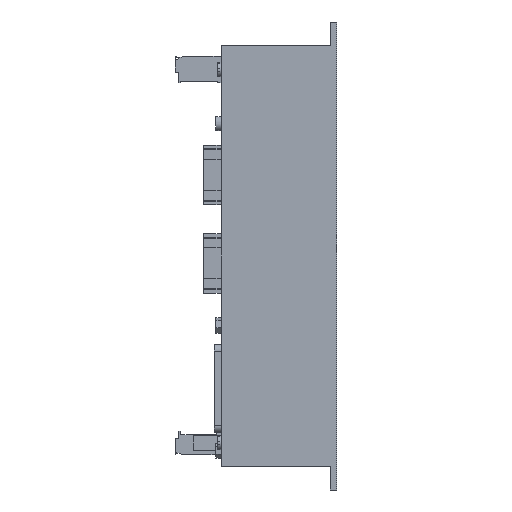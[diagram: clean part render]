
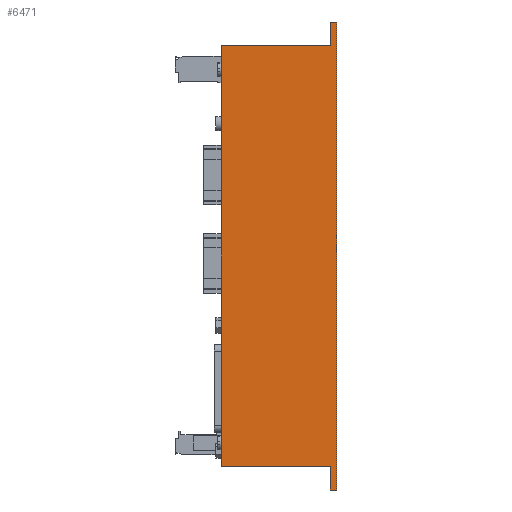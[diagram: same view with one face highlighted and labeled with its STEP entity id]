
A CAD part, left-side view. The second image highlights one B-rep face of the part: STEP entity #6471.
In plain terms, the highlighted planar face has unit normal (-1, 0, 0).
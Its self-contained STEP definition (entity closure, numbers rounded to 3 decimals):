
#251 = VECTOR ( 'NONE', #11590, 1000. ) ;
#496 = LINE ( 'NONE', #15833, #9590 ) ;
#841 = ORIENTED_EDGE ( 'NONE', *, *, #28307, .F. ) ;
#2205 = VERTEX_POINT ( 'NONE', #8844 ) ;
#2322 = DIRECTION ( 'NONE',  ( 0., -1., 0. ) ) ;
#2696 = EDGE_LOOP ( 'NONE', ( #16460, #16550, #32643, #8541, #23138, #3722, #841, #24860 ) ) ;
#3705 = EDGE_CURVE ( 'NONE', #26135, #8671, #10502, .T. ) ;
#3722 = ORIENTED_EDGE ( 'NONE', *, *, #19192, .T. ) ;
#4007 = CARTESIAN_POINT ( 'NONE',  ( -85., 32.8, -59.73 ) ) ;
#4015 = EDGE_CURVE ( 'NONE', #24868, #11826, #15122, .T. ) ;
#4582 = VECTOR ( 'NONE', #31799, 1000. ) ;
#4722 = CARTESIAN_POINT ( 'NONE',  ( -85., 32.8, -59.73 ) ) ;
#4883 = VERTEX_POINT ( 'NONE', #33010 ) ;
#5218 = DIRECTION ( 'NONE',  ( 0., 0., 1. ) ) ;
#5535 = CARTESIAN_POINT ( 'NONE',  ( -85., 0., 66.5 ) ) ;
#6106 = EDGE_CURVE ( 'NONE', #8671, #24868, #11138, .T. ) ;
#6437 = VECTOR ( 'NONE', #25291, 1000. ) ;
#6471 = ADVANCED_FACE ( 'NONE', ( #31438 ), #19083, .F. ) ;
#8541 = ORIENTED_EDGE ( 'NONE', *, *, #3705, .F. ) ;
#8671 = VERTEX_POINT ( 'NONE', #21992 ) ;
#8844 = CARTESIAN_POINT ( 'NONE',  ( -85., 1.8, -66.5 ) ) ;
#8857 = CARTESIAN_POINT ( 'NONE',  ( -85., 1.8, -59.73 ) ) ;
#9234 = DIRECTION ( 'NONE',  ( 0., 0., 1. ) ) ;
#9590 = VECTOR ( 'NONE', #12846, 1000. ) ;
#10502 = LINE ( 'NONE', #25507, #26126 ) ;
#10914 = AXIS2_PLACEMENT_3D ( 'NONE', #31597, #13926, #18760 ) ;
#11138 = LINE ( 'NONE', #11625, #4582 ) ;
#11590 = DIRECTION ( 'NONE',  ( 0., 0., 1. ) ) ;
#11625 = CARTESIAN_POINT ( 'NONE',  ( -85., 1.8, -66.5 ) ) ;
#11826 = VERTEX_POINT ( 'NONE', #5535 ) ;
#12846 = DIRECTION ( 'NONE',  ( 0., -1., 0. ) ) ;
#13926 = DIRECTION ( 'NONE',  ( 1., 0., 0. ) ) ;
#14254 = CARTESIAN_POINT ( 'NONE',  ( -85., 0., -66.5 ) ) ;
#15122 = LINE ( 'NONE', #22615, #6437 ) ;
#15833 = CARTESIAN_POINT ( 'NONE',  ( -85., 1.8, -66.5 ) ) ;
#16460 = ORIENTED_EDGE ( 'NONE', *, *, #23896, .T. ) ;
#16550 = ORIENTED_EDGE ( 'NONE', *, *, #4015, .F. ) ;
#18134 = CARTESIAN_POINT ( 'NONE',  ( -85., 1.8, 66.5 ) ) ;
#18760 = DIRECTION ( 'NONE',  ( 0., 0., -1. ) ) ;
#19083 = PLANE ( 'NONE',  #10914 ) ;
#19088 = LINE ( 'NONE', #14254, #251 ) ;
#19192 = EDGE_CURVE ( 'NONE', #30414, #25699, #21695, .T. ) ;
#19451 = EDGE_CURVE ( 'NONE', #2205, #4883, #496, .T. ) ;
#19563 = LINE ( 'NONE', #4722, #27885 ) ;
#20132 = CARTESIAN_POINT ( 'NONE',  ( -85., 32.8, 59.73 ) ) ;
#21296 = VECTOR ( 'NONE', #29360, 1000. ) ;
#21695 = LINE ( 'NONE', #4007, #21296 ) ;
#21992 = CARTESIAN_POINT ( 'NONE',  ( -85., 1.8, 59.73 ) ) ;
#22615 = CARTESIAN_POINT ( 'NONE',  ( -85., 1.8, 66.5 ) ) ;
#23138 = ORIENTED_EDGE ( 'NONE', *, *, #28267, .F. ) ;
#23896 = EDGE_CURVE ( 'NONE', #4883, #11826, #19088, .T. ) ;
#24673 = VECTOR ( 'NONE', #5218, 1000. ) ;
#24860 = ORIENTED_EDGE ( 'NONE', *, *, #19451, .T. ) ;
#24868 = VERTEX_POINT ( 'NONE', #18134 ) ;
#25291 = DIRECTION ( 'NONE',  ( 0., -1., 0. ) ) ;
#25507 = CARTESIAN_POINT ( 'NONE',  ( -85., 32.8, 59.73 ) ) ;
#25699 = VERTEX_POINT ( 'NONE', #8857 ) ;
#26126 = VECTOR ( 'NONE', #2322, 1000. ) ;
#26135 = VERTEX_POINT ( 'NONE', #20132 ) ;
#27885 = VECTOR ( 'NONE', #9234, 1000. ) ;
#28228 = CARTESIAN_POINT ( 'NONE',  ( -85., 1.8, -66.5 ) ) ;
#28267 = EDGE_CURVE ( 'NONE', #30414, #26135, #19563, .T. ) ;
#28307 = EDGE_CURVE ( 'NONE', #2205, #25699, #28386, .T. ) ;
#28386 = LINE ( 'NONE', #28228, #24673 ) ;
#29292 = CARTESIAN_POINT ( 'NONE',  ( -85., 32.8, -59.73 ) ) ;
#29360 = DIRECTION ( 'NONE',  ( 0., -1., 0. ) ) ;
#30414 = VERTEX_POINT ( 'NONE', #29292 ) ;
#31438 = FACE_OUTER_BOUND ( 'NONE', #2696, .T. ) ;
#31597 = CARTESIAN_POINT ( 'NONE',  ( -85., 1.8, -66.5 ) ) ;
#31799 = DIRECTION ( 'NONE',  ( 0., 0., 1. ) ) ;
#32643 = ORIENTED_EDGE ( 'NONE', *, *, #6106, .F. ) ;
#33010 = CARTESIAN_POINT ( 'NONE',  ( -85., 0., -66.5 ) ) ;
